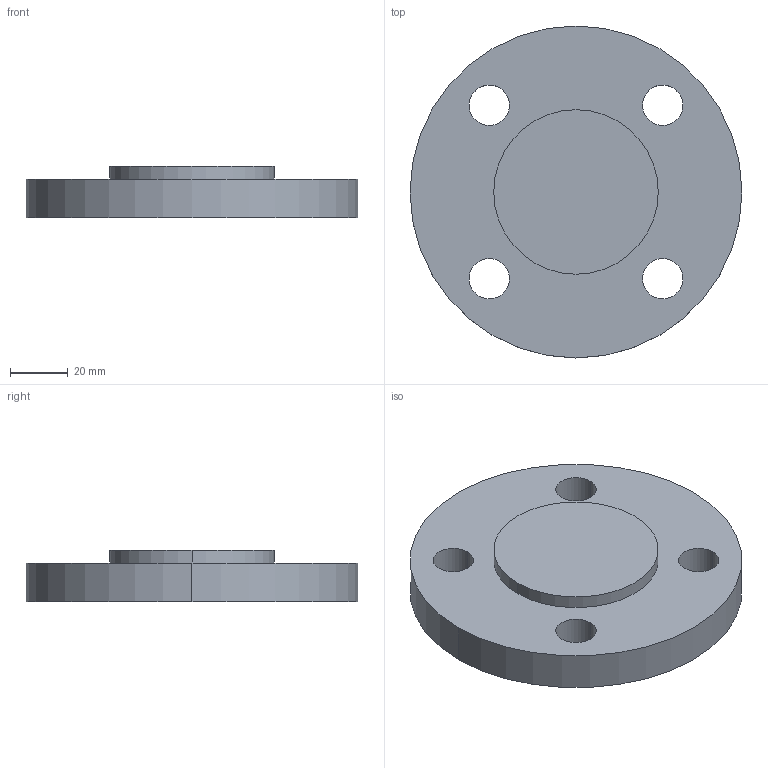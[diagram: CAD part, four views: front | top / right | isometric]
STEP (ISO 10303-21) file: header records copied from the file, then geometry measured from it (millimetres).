
FILE_DESCRIPTION (( 'STEP AP214' ), '1' );
FILE_NAME ('PN40 DN25 Type 05 - Type E Face.STEP', '2018-12-29T20:34:34', ( '' ), ( '' ), 'SwSTEP 2.0', 'SolidWorks 2019', '' );
FILE_SCHEMA (( 'AUTOMOTIVE_DESIGN' ));
Length unit declared in the file: millimetre
Products named in the file (1): PN40 DN25 Type 05 - Type E Face
Bounding box: 115 x 115 x 18 mm (x, y, z)
Volume: 143393.3 mm3; surface area: 27600.5 mm2
Topology: 1 solids, 1 shells, 15 faces, 36 edges, 24 vertices
Faces by surface type: cylinder 12, plane 3
Entity records: 504 total; most frequent: DIRECTION 92, CARTESIAN_POINT 76, ORIENTED_EDGE 72, AXIS2_PLACEMENT_3D 40, EDGE_CURVE 36, CIRCLE 24, EDGE_LOOP 24, VERTEX_POINT 24
